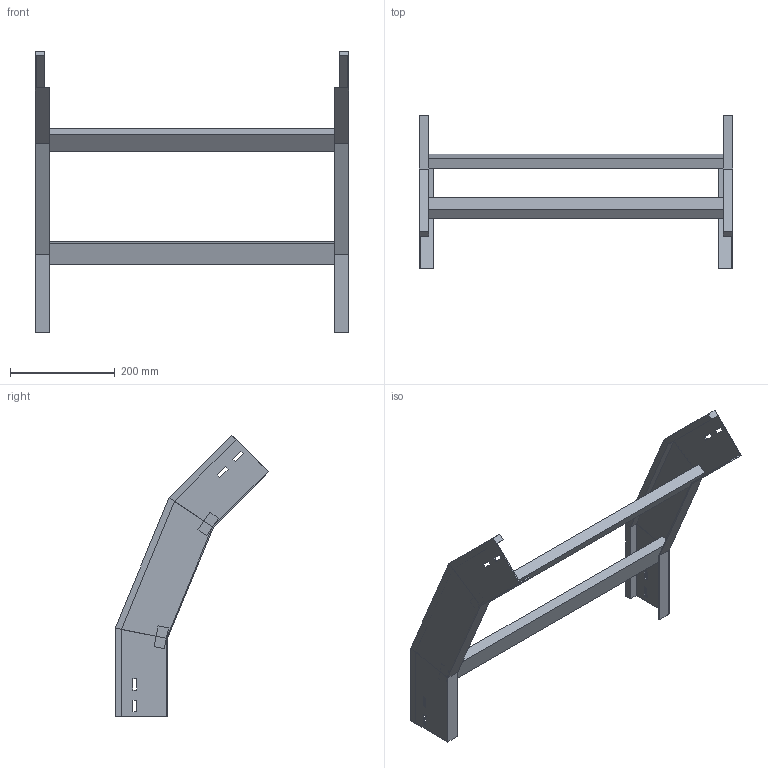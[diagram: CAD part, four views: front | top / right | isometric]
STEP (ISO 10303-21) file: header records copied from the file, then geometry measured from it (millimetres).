
FILE_DESCRIPTION (( 'STEP AP214' ), '1' );
FILE_NAME ('A2_34B3D600.step', '2025-02-21T14:51:42', ( '' ), ( '' ), 'SwSTEP 2.0', 'SolidWorks 2023', '' );
FILE_SCHEMA (( 'AUTOMOTIVE_DESIGN' ));
Length unit declared in the file: millimetre
Products named in the file (3): A2_34B3D600; TRAVERSINO_600; LONGH.DISCESA_45°_H100_R300
Assembly tree (5 placements, depth 2):
  A2_34B3D600
    LONGH.DISCESA_45°_H100_R300  x2
    TRAVERSINO_600  x3
Bounding box: 600 x 294.08 x 539.27 mm (x, y, z)
Volume: 1959048.3 mm3; surface area: 545697.4 mm2
Topology: 5 solids, 5 shells, 102 faces, 244 edges, 152 vertices
Faces by surface type: plane 102
Entity records: 1480 total; most frequent: CARTESIAN_POINT 244, ORIENTED_EDGE 232, DIRECTION 228, VECTOR 116, LINE 116, EDGE_CURVE 116, VERTEX_POINT 72, AXIS2_PLACEMENT_3D 56
